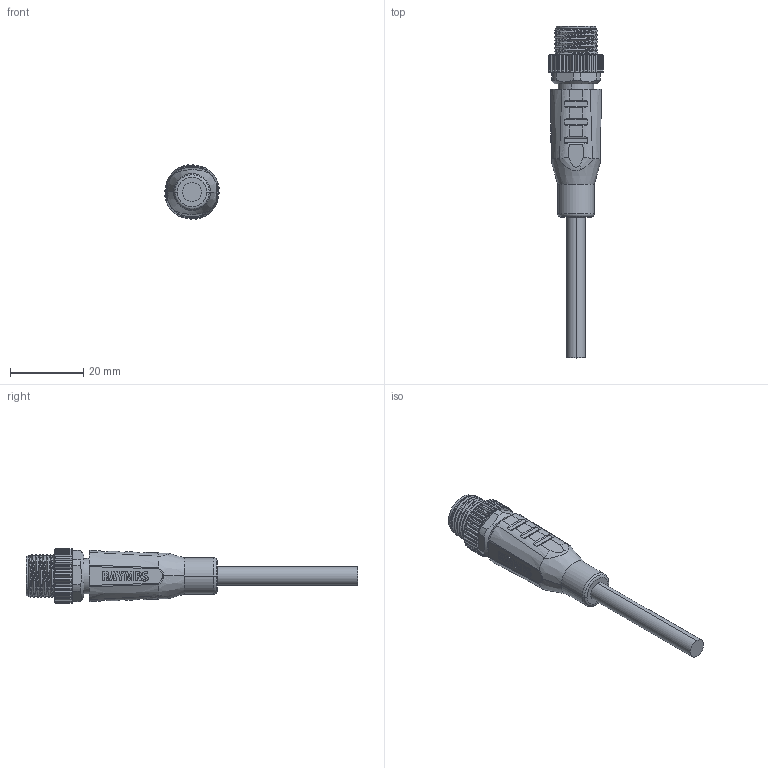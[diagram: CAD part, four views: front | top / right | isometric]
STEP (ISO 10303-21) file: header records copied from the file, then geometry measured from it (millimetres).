
FILE_DESCRIPTION((''),'2;1');
FILE_NAME('M12-12MS_P-L','2025-05-20T',('lyj'),(''),'PRO/ENGINEER BY PARAMETRIC TECHNOLOGY CORPORATION, 2009360','PRO/ENGINEER BY PARAMETRIC TECHNOLOGY CORPORATION, 2009360','');
FILE_SCHEMA(('CONFIG_CONTROL_DESIGN'));
Length unit declared in the file: millimetre
Products named in the file (1): M12-12MS_P-L
Bounding box: 15 x 90.8 x 15 mm (x, y, z)
Volume: 7009.4 mm3; surface area: 4327.7 mm2
Topology: 1 solids, 17 shells, 682 faces, 1868 edges, 1208 vertices
Faces by surface type: cylinder 239, plane 212, cone 139, sphere 34, extrusion 31, bspline 22, torus 5
Entity records: 25066 total; most frequent: CARTESIAN_POINT 8209, ORIENTED_EDGE 3668, DIRECTION 3311, EDGE_CURVE 1834, AXIS2_PLACEMENT_3D 1236, VERTEX_POINT 1208, VECTOR 839, LINE 808
